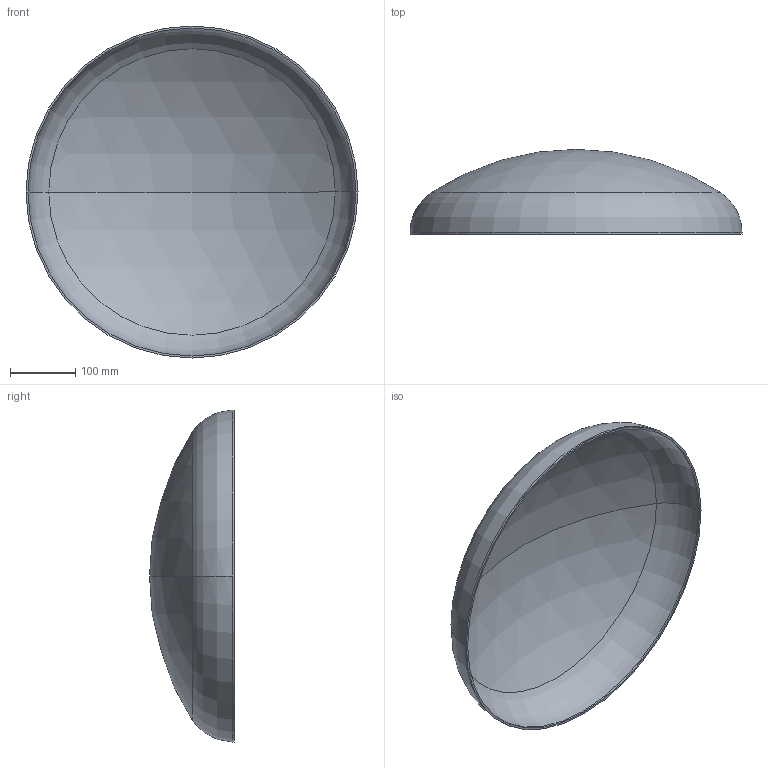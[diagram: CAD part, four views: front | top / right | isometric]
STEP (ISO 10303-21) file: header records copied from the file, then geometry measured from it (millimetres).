
FILE_DESCRIPTION (( 'STEP AP203' ), '1' );
FILE_NAME ('3D_R365_508x3_173375240.STEP', '2024-07-16T07:38:51', ( '' ), ( '' ), 'SwSTEP 2.0', 'SolidWorks 2024', '' );
FILE_SCHEMA (( 'CONFIG_CONTROL_DESIGN' ));
Length unit declared in the file: millimetre
Products named in the file (1): 3D_R365_508x3_173375240
Bounding box: 508 x 130 x 508 mm (x, y, z)
Volume: 834124.1 mm3; surface area: 560860.9 mm2
Topology: 1 solids, 1 shells, 13 faces, 24 edges, 14 vertices
Faces by surface type: sphere 4, torus 4, cylinder 4, plane 1
Entity records: 407 total; most frequent: DIRECTION 72, CARTESIAN_POINT 52, ORIENTED_EDGE 48, AXIS2_PLACEMENT_3D 34, EDGE_CURVE 24, CIRCLE 20, EDGE_LOOP 14, VERTEX_POINT 14
